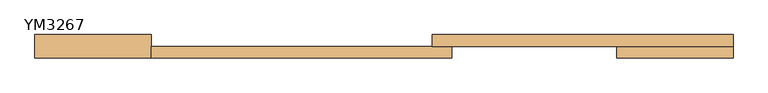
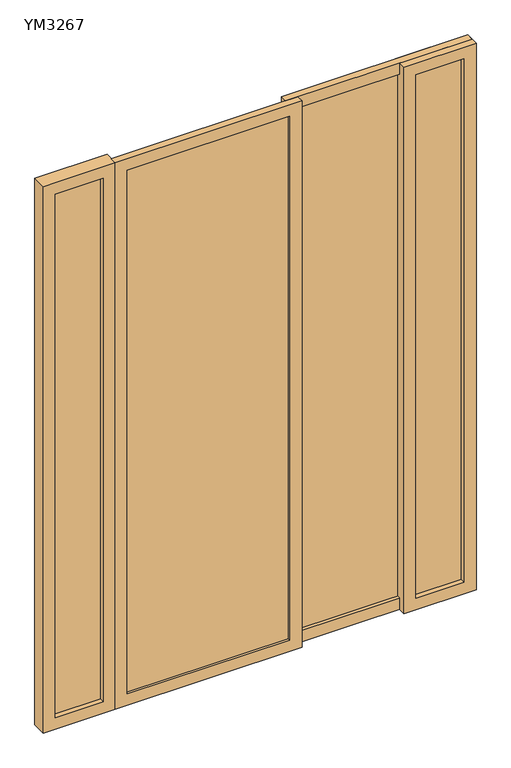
"""IFC4 building model written with IfcOpenShell, lengths in millimetres: door geometry, 移门-推拉门 : YM3267."""

from ifc_helpers import new_model, si_unit, frame, origin, place, context, project, spatial, polyline, outline, extrude, source, transform, mapped, element, save


def ym3267_00a1a1f0(model_context):
    return source(origin(), model_context, "Body", "SweptSolid", [
        extrude(outline(polyline([(125.0, -5.0), (-550.0, -5.0), (-550.0, 5.0), (125.0, 5.0), (125.0, -5.0)])), frame((0.0, 0.0, 50.0), z_axis=(0.0, 0.0, 1.0), x_axis=(1.0, 0.0, 0.0)), (0.0, 0.0, 1.0), 2300.0),
        extrude(outline(polyline([(850.0, 30.0), (175.0, 30.0), (175.0, 40.0), (850.0, 40.0), (850.0, 30.0)])), frame((0.0, 0.0, 50.0), z_axis=(0.0, 0.0, 1.0), x_axis=(1.0, 0.0, 0.0)), (0.0, 0.0, 1.0), 2300.0),
        extrude(outline(polyline([(-650.0, 5.7105538), (-850.0, 5.7105538), (-850.0, 25.7105538), (-650.0, 25.7105538), (-650.0, 5.7105538)])), frame((0.0, 0.0, 50.0), z_axis=(0.0, 0.0, 1.0), x_axis=(1.0, 0.0, 0.0)), (0.0, 0.0, 1.0), 2300.0),
        extrude(outline(polyline([(850.0, 5.7105538), (650.0, 5.7105538), (650.0, 25.7105538), (850.0, 25.7105538), (850.0, 5.7105538)])), frame((0.0, 0.0, 50.0), z_axis=(0.0, 0.0, 1.0), x_axis=(1.0, 0.0, 0.0)), (0.0, 0.0, 1.0), 2300.0),
        extrude(outline(polyline([(0.0, 900.0), (2400.0, 900.0), (2400.0, 125.0), (0.0, 125.0), (0.0, 900.0)]), holes=[polyline([(2350.0, 175.0), (2350.0, 850.0), (50.0, 850.0), (50.0, 175.0), (2350.0, 175.0)])]), frame((0.0, 15.0, 0.0), z_axis=(0.0, 1.0, 0.0), x_axis=(0.0, 0.0, 1.0)), (0.0, 0.0, 1.0), 30.0),
        extrude(outline(polyline([(0.0, 175.0), (2400.0, 175.0), (2400.0, -600.0), (0.0, -600.0), (0.0, 175.0)]), holes=[polyline([(2350.0, -550.0), (2350.0, 125.0), (50.0, 125.0), (50.0, -550.0), (2350.0, -550.0)])]), frame((0.0, -15.0, 0.0), z_axis=(0.0, 1.0, 0.0), x_axis=(0.0, 0.0, 1.0)), (0.0, 0.0, 1.0), 30.0),
        extrude(outline(polyline([(0.0, -600.0), (2400.0, -600.0), (2400.0, -900.0), (0.0, -900.0), (0.0, -600.0)]), holes=[polyline([(2350.0, -850.0), (2350.0, -650.0), (50.0, -650.0), (50.0, -850.0), (2350.0, -850.0)])]), frame((0.0, -15.0, 0.0), z_axis=(0.0, 1.0, 0.0), x_axis=(0.0, 0.0, 1.0)), (0.0, 0.0, 1.0), 60.0),
        extrude(outline(polyline([(0.0, 900.0), (2400.0, 900.0), (2400.0, 600.0), (0.0, 600.0), (0.0, 900.0)]), holes=[polyline([(2350.0, 650.0), (2350.0, 850.0), (50.0, 850.0), (50.0, 650.0), (2350.0, 650.0)])]), frame((0.0, -15.0, 0.0), z_axis=(0.0, 1.0, 0.0), x_axis=(0.0, 0.0, 1.0)), (0.0, 0.0, 1.0), 60.0),
    ])


if __name__ == "__main__":
    model = new_model("IFC4")
    model_context = context("Model", 3, world=origin())
    ifc_project = project(units=[si_unit("LENGTHUNIT", "METRE", prefix="MILLI")], contexts=[model_context])
    site = spatial("IfcSite", under=ifc_project)
    building = spatial("IfcBuilding", under=site)
    placement = place(None, origin())
    ym3267_shape = ym3267_00a1a1f0(model_context)
    element("IfcDoor", 1, ObjectType="移门-推拉门 : YM3267", at=placement, inside=building, context=model_context, shape_type="MappedRepresentation", body=[
        mapped(ym3267_shape, transform((0.0, 0.0, 0.0), x_axis=(1.0, 0.0, 0.0), y_axis=(0.0, 1.0, 0.0), z_axis=(0.0, 0.0, 1.0))),
    ])
    save(model, "model.ifc")
